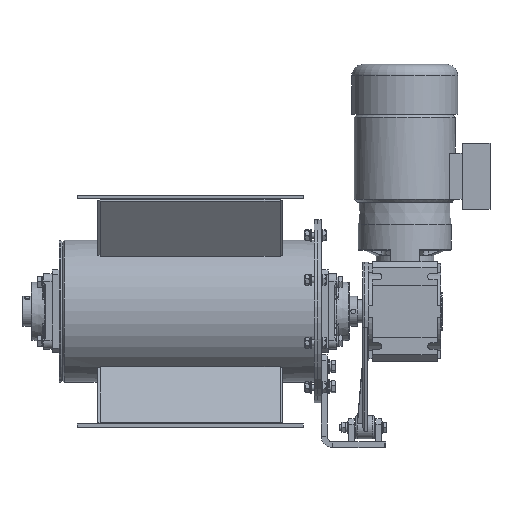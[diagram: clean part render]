
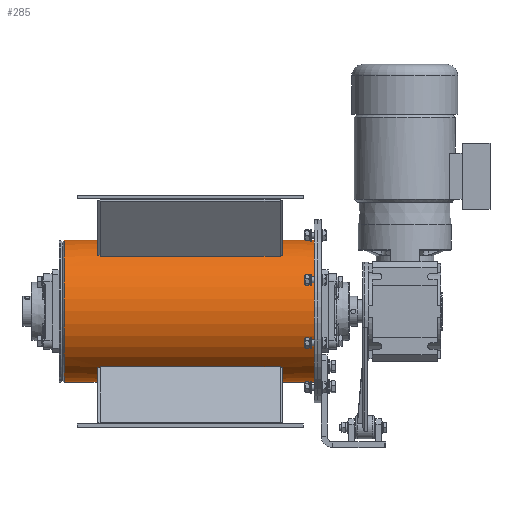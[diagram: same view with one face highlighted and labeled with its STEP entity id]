
A CAD part, front view. The second image highlights one B-rep face of the part: STEP entity #285.
In plain terms, the highlighted cylindrical face has radius 122.5 mm (diameter 245 mm), a full revolution.
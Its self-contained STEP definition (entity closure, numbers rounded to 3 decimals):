
#162=CARTESIAN_POINT('',(-217.,122.5,0.));
#163=VERTEX_POINT('',#162);
#164=CARTESIAN_POINT('',(-217.,0.0,0.0));
#165=DIRECTION('',(-1.0,0.0,0.0));
#166=DIRECTION('',(0.0,-1.0,0.0));
#167=AXIS2_PLACEMENT_3D('',#164,#165,#166);
#168=CIRCLE('',#167,122.5);
#169=EDGE_CURVE('',#163,#163,#168,.T.);
#194=CARTESIAN_POINT('',(0.0,0.0,0.0));
#195=DIRECTION('',(1.0,0.0,0.0));
#196=DIRECTION('',(0.0,-1.0,0.0));
#197=AXIS2_PLACEMENT_3D('',#194,#195,#196);
#198=CYLINDRICAL_SURFACE('',#197,122.5);
#199=CARTESIAN_POINT('',(220.0,122.5,0.));
#200=VERTEX_POINT('',#199);
#201=CARTESIAN_POINT('',(220.0,0.0,0.0));
#202=DIRECTION('',(-1.0,0.0,0.0));
#203=DIRECTION('',(0.0,-1.0,0.0));
#204=AXIS2_PLACEMENT_3D('',#201,#202,#203);
#205=CIRCLE('',#204,122.5);
#206=EDGE_CURVE('',#200,#200,#205,.T.);
#207=ORIENTED_EDGE('',*,*,#206,.T.);
#208=EDGE_LOOP('',(#207));
#209=FACE_OUTER_BOUND('',#208,.T.);
#210=CARTESIAN_POINT('',(150.0,75.,96.857));
#211=VERTEX_POINT('',#210);
#212=CARTESIAN_POINT('',(150.0,-75.,96.857));
#213=VERTEX_POINT('',#212);
#214=CARTESIAN_POINT('',(150.0,0.0,0.0));
#215=DIRECTION('',(1.0,0.0,0.0));
#216=DIRECTION('',(0.0,-1.0,0.0));
#217=AXIS2_PLACEMENT_3D('',#214,#215,#216);
#218=CIRCLE('',#217,122.5);
#219=EDGE_CURVE('',#211,#213,#218,.T.);
#220=ORIENTED_EDGE('',*,*,#219,.T.);
#221=CARTESIAN_POINT('',(-150.0,-75.,96.857));
#222=VERTEX_POINT('',#221);
#223=CARTESIAN_POINT('',(150.0,-75.,96.857));
#224=DIRECTION('',(-1.0,0.0,0.0));
#225=VECTOR('',#224,300.0);
#226=LINE('',#223,#225);
#227=EDGE_CURVE('',#213,#222,#226,.T.);
#228=ORIENTED_EDGE('',*,*,#227,.T.);
#229=CARTESIAN_POINT('',(-150.,75.,96.857));
#230=VERTEX_POINT('',#229);
#231=CARTESIAN_POINT('',(-150.0,0.0,0.0));
#232=DIRECTION('',(-1.0,0.0,0.0));
#233=DIRECTION('',(0.0,-1.0,0.0));
#234=AXIS2_PLACEMENT_3D('',#231,#232,#233);
#235=CIRCLE('',#234,122.5);
#236=EDGE_CURVE('',#222,#230,#235,.T.);
#237=ORIENTED_EDGE('',*,*,#236,.T.);
#238=CARTESIAN_POINT('',(-150.,75.0,96.857));
#239=DIRECTION('',(1.0,0.0,0.0));
#240=VECTOR('',#239,300.);
#241=LINE('',#238,#240);
#242=EDGE_CURVE('',#230,#211,#241,.T.);
#243=ORIENTED_EDGE('',*,*,#242,.T.);
#244=EDGE_LOOP('',(#220,#228,#237,#243));
#245=FACE_BOUND('',#244,.T.);
#246=CARTESIAN_POINT('',(-150.0,75.0,-96.857));
#247=VERTEX_POINT('',#246);
#248=CARTESIAN_POINT('',(-150.0,-75.0,-96.857));
#249=VERTEX_POINT('',#248);
#250=CARTESIAN_POINT('',(-150.0,0.0,0.0));
#251=DIRECTION('',(-1.0,0.0,0.0));
#252=DIRECTION('',(0.0,-1.0,0.0));
#253=AXIS2_PLACEMENT_3D('',#250,#251,#252);
#254=CIRCLE('',#253,122.5);
#255=EDGE_CURVE('',#247,#249,#254,.T.);
#256=ORIENTED_EDGE('',*,*,#255,.T.);
#257=CARTESIAN_POINT('',(150.0,-75.0,-96.857));
#258=VERTEX_POINT('',#257);
#259=CARTESIAN_POINT('',(-150.0,-75.0,-96.857));
#260=DIRECTION('',(1.0,0.0,0.0));
#261=VECTOR('',#260,300.0);
#262=LINE('',#259,#261);
#263=EDGE_CURVE('',#249,#258,#262,.T.);
#264=ORIENTED_EDGE('',*,*,#263,.T.);
#265=CARTESIAN_POINT('',(150.0,75.0,-96.857));
#266=VERTEX_POINT('',#265);
#267=CARTESIAN_POINT('',(150.0,0.0,0.0));
#268=DIRECTION('',(1.0,0.0,0.0));
#269=DIRECTION('',(0.0,-1.0,0.0));
#270=AXIS2_PLACEMENT_3D('',#267,#268,#269);
#271=CIRCLE('',#270,122.5);
#272=EDGE_CURVE('',#258,#266,#271,.T.);
#273=ORIENTED_EDGE('',*,*,#272,.T.);
#274=CARTESIAN_POINT('',(150.0,75.0,-96.857));
#275=DIRECTION('',(-1.0,0.0,0.0));
#276=VECTOR('',#275,300.0);
#277=LINE('',#274,#276);
#278=EDGE_CURVE('',#266,#247,#277,.T.);
#279=ORIENTED_EDGE('',*,*,#278,.T.);
#280=EDGE_LOOP('',(#256,#264,#273,#279));
#281=FACE_BOUND('',#280,.T.);
#282=ORIENTED_EDGE('',*,*,#169,.F.);
#283=EDGE_LOOP('',(#282));
#284=FACE_BOUND('',#283,.T.);
#285=ADVANCED_FACE('',(#209,#245,#281,#284),#198,.T.);
